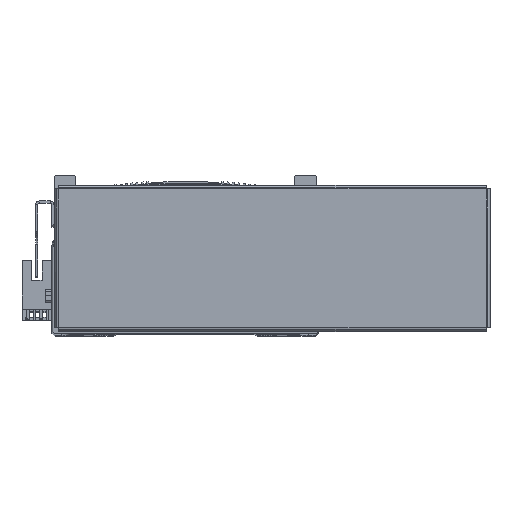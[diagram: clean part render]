
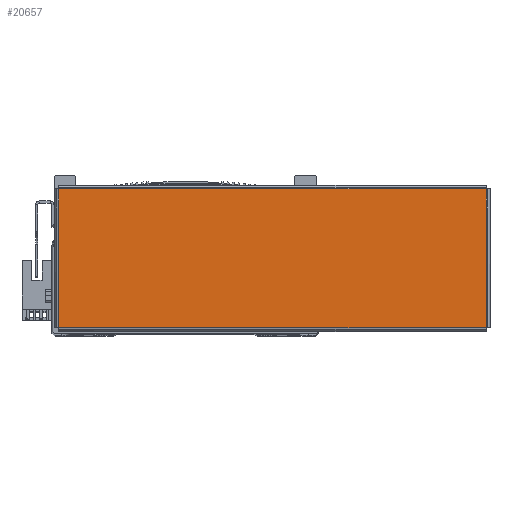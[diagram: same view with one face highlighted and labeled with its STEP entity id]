
A CAD part, top view. The second image highlights one B-rep face of the part: STEP entity #20657.
In plain terms, the highlighted planar face has unit normal (0, 0, 1) as drawn and (0, 0, -1) by its records, which use the part's own axes.
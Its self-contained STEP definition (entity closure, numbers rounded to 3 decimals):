
#17261 = VERTEX_POINT ( 'NONE', #31801 ) ;
#17306 = VERTEX_POINT ( 'NONE', #31794 ) ;
#17314 = VERTEX_POINT ( 'NONE', #31805 ) ;
#17320 = VERTEX_POINT ( 'NONE', #31881 ) ;
#20657 = ADVANCED_FACE ( 'NONE', ( #30756 ), #33438, .F. ) ;
#22273 = EDGE_LOOP ( 'NONE', ( #25962, #26064, #25971, #26010 ) ) ;
#25962 = ORIENTED_EDGE ( 'NONE', *, *, #39076, .T. ) ;
#25971 = ORIENTED_EDGE ( 'NONE', *, *, #38929, .T. ) ;
#26010 = ORIENTED_EDGE ( 'NONE', *, *, #39049, .T. ) ;
#26064 = ORIENTED_EDGE ( 'NONE', *, *, #39040, .T. ) ;
#30245 = VECTOR ( 'NONE', #68674, 1000. ) ;
#30259 = VECTOR ( 'NONE', #68742, 1000. ) ;
#30262 = LINE ( 'NONE', #68776, #30322 ) ;
#30287 = LINE ( 'NONE', #68703, #30245 ) ;
#30322 = VECTOR ( 'NONE', #68762, 1000. ) ;
#30329 = LINE ( 'NONE', #68719, #30259 ) ;
#30756 = FACE_OUTER_BOUND ( 'NONE', #22273, .T. ) ;
#31324 = LINE ( 'NONE', #68446, #31333 ) ;
#31333 = VECTOR ( 'NONE', #68447, 1000. ) ;
#31515 = DIRECTION ( 'NONE',  ( 0., 0., 1. ) ) ;
#31794 = CARTESIAN_POINT ( 'NONE',  ( -97.863, 31.763, -1. ) ) ;
#31801 = CARTESIAN_POINT ( 'NONE',  ( 97.863, 31.763, -1. ) ) ;
#31805 = CARTESIAN_POINT ( 'NONE',  ( -97.863, -31.763, -1. ) ) ;
#31881 = CARTESIAN_POINT ( 'NONE',  ( 97.863, -31.763, -1. ) ) ;
#32716 = DIRECTION ( 'NONE',  ( 1., 0., 0. ) ) ;
#33438 = PLANE ( 'NONE',  #70885 ) ;
#33533 = CARTESIAN_POINT ( 'NONE',  ( 0., 0., -1. ) ) ;
#38929 = EDGE_CURVE ( 'NONE', #17314, #17306, #31324, .T. ) ;
#39040 = EDGE_CURVE ( 'NONE', #17320, #17314, #30287, .T. ) ;
#39049 = EDGE_CURVE ( 'NONE', #17306, #17261, #30329, .T. ) ;
#39076 = EDGE_CURVE ( 'NONE', #17261, #17320, #30262, .T. ) ;
#68446 = CARTESIAN_POINT ( 'NONE',  ( -97.863, -31.793, -1. ) ) ;
#68447 = DIRECTION ( 'NONE',  ( 0., 1., 0. ) ) ;
#68674 = DIRECTION ( 'NONE',  ( -1., 0., 0. ) ) ;
#68703 = CARTESIAN_POINT ( 'NONE',  ( 97.893, -31.763, -1. ) ) ;
#68719 = CARTESIAN_POINT ( 'NONE',  ( -97.893, 31.763, -1. ) ) ;
#68742 = DIRECTION ( 'NONE',  ( 1., 0., 0. ) ) ;
#68762 = DIRECTION ( 'NONE',  ( 0., -1., 0. ) ) ;
#68776 = CARTESIAN_POINT ( 'NONE',  ( 97.863, 31.793, -1. ) ) ;
#70885 = AXIS2_PLACEMENT_3D ( 'NONE', #33533, #31515, #32716 ) ;
